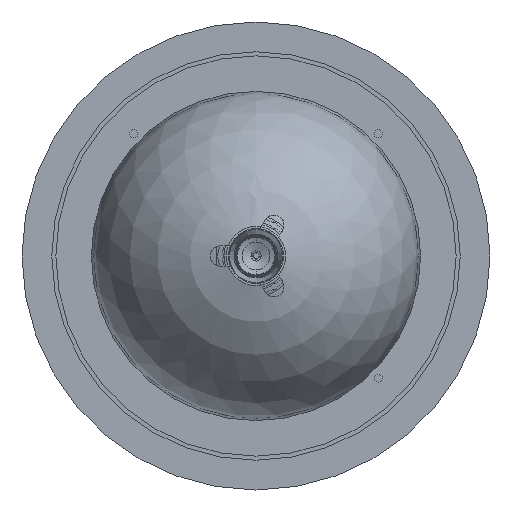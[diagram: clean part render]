
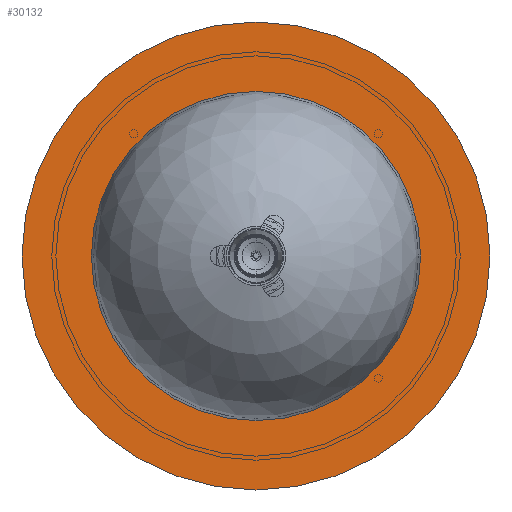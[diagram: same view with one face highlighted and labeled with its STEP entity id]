
A CAD part, front view. The second image highlights one B-rep face of the part: STEP entity #30132.
In plain terms, the highlighted planar face has unit normal (0, -1, 0).
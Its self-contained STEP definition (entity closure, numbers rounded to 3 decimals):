
#3717=PLANE('',#32727);
#5324=FACE_OUTER_BOUND('',#6992,.T.);
#6992=EDGE_LOOP('',(#26549));
#10096=CIRCLE('',#32725,11.5);
#13000=VERTEX_POINT('',#123821);
#17518=EDGE_CURVE('',#13000,#13000,#10096,.T.);
#26549=ORIENTED_EDGE('',*,*,#17518,.T.);
#30132=ADVANCED_FACE('',(#5324),#3717,.T.);
#32725=AXIS2_PLACEMENT_3D('',#123823,#38812,#38813);
#32727=AXIS2_PLACEMENT_3D('',#123825,#38816,#38817);
#38812=DIRECTION('center_axis',(0.,-1.,0.));
#38813=DIRECTION('ref_axis',(0.,0.,
1.));
#38816=DIRECTION('center_axis',(0.,-1.,0.));
#38817=DIRECTION('ref_axis',(1.,0.,0.));
#123821=CARTESIAN_POINT('',(0.,246.873,-11.5));
#123823=CARTESIAN_POINT('Origin',(0.,246.873,
0.));
#123825=CARTESIAN_POINT('Origin',(0.,246.873,
0.));
